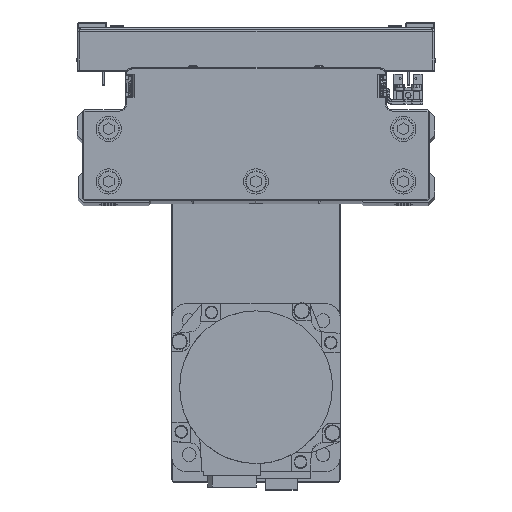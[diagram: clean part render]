
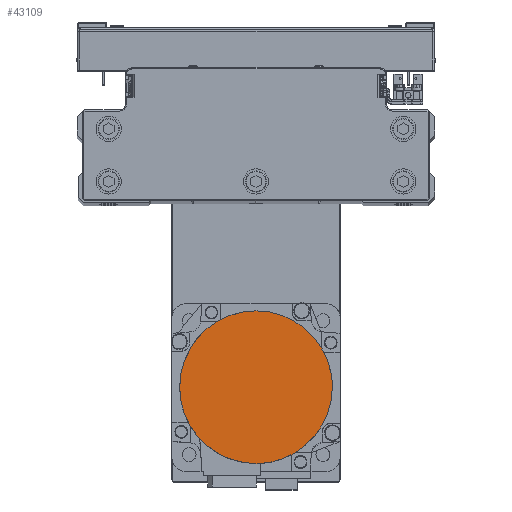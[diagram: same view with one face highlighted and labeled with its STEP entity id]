
A CAD part, top view. The second image highlights one B-rep face of the part: STEP entity #43109.
In plain terms, the highlighted planar face has unit normal (0, 0, 1) as drawn and (0, 0, -1) by its records, which use the part's own axes.
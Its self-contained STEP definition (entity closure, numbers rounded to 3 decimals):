
#898 = CARTESIAN_POINT ( 'NONE',  ( -2.376, 36.3, -122.2 ) ) ;
#987 = CARTESIAN_POINT ( 'NONE',  ( 0., -36.3, -122.2 ) ) ;
#1102 = CARTESIAN_POINT ( 'NONE',  ( -36.3, 0., -122.2 ) ) ;
#1126 = CARTESIAN_POINT ( 'NONE',  ( -35.139, 9.412, -122.2 ) ) ;
#1446 = ORIENTED_EDGE ( 'NONE', *, *, #22319, .F. ) ;
#1965 = CARTESIAN_POINT ( 'NONE',  ( -36.066, -4.752, -122.2 ) ) ;
#2179 = CARTESIAN_POINT ( 'NONE',  ( -4.752, -36.066, -122.2 ) ) ;
#3887 = EDGE_CURVE ( 'NONE', #6799, #14491, #17434, .T. ) ;
#4473 = CARTESIAN_POINT ( 'NONE',  ( 0., 0., -122.2 ) ) ;
#4503 = CARTESIAN_POINT ( 'NONE',  ( -31.502, 18.192, -122.2 ) ) ;
#5569 = CARTESIAN_POINT ( 'NONE',  ( -16.086, -32.628, -122.2 ) ) ;
#5800 = CARTESIAN_POINT ( 'NONE',  ( 36.3, 0., -122.2 ) ) ;
#6348 = DIRECTION ( 'NONE',  ( -1., 0., 0. ) ) ;
#6799 = VERTEX_POINT ( 'NONE', #5800 ) ;
#7138 = CARTESIAN_POINT ( 'NONE',  ( 0., 0., -122.2 ) ) ;
#7877 = CARTESIAN_POINT ( 'NONE',  ( -23.988, 27.348, -122.2 ) ) ;
#8948 = CARTESIAN_POINT ( 'NONE',  ( -23.988, -27.348, -122.2 ) ) ;
#11102 = ORIENTED_EDGE ( 'NONE', *, *, #35193, .F. ) ;
#11276 = CARTESIAN_POINT ( 'NONE',  ( -16.086, 32.628, -122.2 ) ) ;
#11455 = EDGE_CURVE ( 'NONE', #35699, #13165, #40135, .T. ) ;
#12094 = CARTESIAN_POINT ( 'NONE',  ( 0., 36.3, -122.2 ) ) ;
#12331 = CARTESIAN_POINT ( 'NONE',  ( -31.502, -18.192, -122.2 ) ) ;
#13165 = VERTEX_POINT ( 'NONE', #987 ) ;
#14491 = VERTEX_POINT ( 'NONE', #12094 ) ;
#14650 = CARTESIAN_POINT ( 'NONE',  ( -4.752, 36.066, -122.2 ) ) ;
#14862 = CIRCLE ( 'NONE', #40001, 36.3 ) ;
#14872 = CARTESIAN_POINT ( 'NONE',  ( -36.066, 4.752, -122.2 ) ) ;
#15730 = CARTESIAN_POINT ( 'NONE',  ( -35.139, -9.412, -122.2 ) ) ;
#15941 = CARTESIAN_POINT ( 'NONE',  ( -2.376, -36.3, -122.2 ) ) ;
#17434 = CIRCLE ( 'NONE', #42582, 36.3 ) ;
#18202 = DIRECTION ( 'NONE',  ( 0., 0., 1. ) ) ;
#18232 = CARTESIAN_POINT ( 'NONE',  ( -32.628, 16.086, -122.2 ) ) ;
#18540 = EDGE_LOOP ( 'NONE', ( #11102, #26945, #1446, #20354 ) ) ;
#19091 = CARTESIAN_POINT ( 'NONE',  ( -36.3, 0., -122.2 ) ) ;
#19315 = CARTESIAN_POINT ( 'NONE',  ( -11.696, -34.446, -122.2 ) ) ;
#20354 = ORIENTED_EDGE ( 'NONE', *, *, #3887, .F. ) ;
#20646 = B_SPLINE_CURVE_WITH_KNOTS ( 'NONE', 3,
 ( #31737, #898, #14650, #28382, #42104, #11276, #24998, #38735, #7877, #21602, #35345, #4503, #18232, #31972, #1126, #14872, #28599, #42323 ),
 .UNSPECIFIED., .F., .F.,
 ( 4, 2, 2, 2, 2, 2, 2, 2, 4 ),
 ( 0., 0.125, 0.25, 0.375, 0.5, 0.625, 0.75, 0.875, 1. ),
 .UNSPECIFIED. ) ;
#20871 = DIRECTION ( 'NONE',  ( 0., 0., 1. ) ) ;
#21576 = FACE_OUTER_BOUND ( 'NONE', #18540, .T. ) ;
#21602 = CARTESIAN_POINT ( 'NONE',  ( -27.348, 23.988, -122.2 ) ) ;
#22319 = EDGE_CURVE ( 'NONE', #14491, #35699, #20646, .T. ) ;
#22687 = CARTESIAN_POINT ( 'NONE',  ( -22.143, -28.862, -122.2 ) ) ;
#23463 = CARTESIAN_POINT ( 'NONE',  ( 0., 0., -122.2 ) ) ;
#24998 = CARTESIAN_POINT ( 'NONE',  ( -18.192, 31.502, -122.2 ) ) ;
#26064 = CARTESIAN_POINT ( 'NONE',  ( -28.862, -22.143, -122.2 ) ) ;
#26106 = AXIS2_PLACEMENT_3D ( 'NONE', #4473, #18202, #31935 ) ;
#26945 = ORIENTED_EDGE ( 'NONE', *, *, #11455, .F. ) ;
#28382 = CARTESIAN_POINT ( 'NONE',  ( -9.412, 35.139, -122.2 ) ) ;
#28599 = CARTESIAN_POINT ( 'NONE',  ( -36.3, 2.376, -122.2 ) ) ;
#29445 = CARTESIAN_POINT ( 'NONE',  ( -34.446, -11.696, -122.2 ) ) ;
#29665 = CARTESIAN_POINT ( 'NONE',  ( 0., -36.3, -122.2 ) ) ;
#31737 = CARTESIAN_POINT ( 'NONE',  ( 0., 36.3, -122.2 ) ) ;
#31935 = DIRECTION ( 'NONE',  ( 1., 0., 0. ) ) ;
#31972 = CARTESIAN_POINT ( 'NONE',  ( -34.446, 11.696, -122.2 ) ) ;
#32807 = CARTESIAN_POINT ( 'NONE',  ( -36.3, -2.376, -122.2 ) ) ;
#33032 = CARTESIAN_POINT ( 'NONE',  ( -9.412, -35.139, -122.2 ) ) ;
#34600 = DIRECTION ( 'NONE',  ( -1., 0., 0. ) ) ;
#35193 = EDGE_CURVE ( 'NONE', #13165, #6799, #14862, .T. ) ;
#35313 = PLANE ( 'NONE',  #26106 ) ;
#35345 = CARTESIAN_POINT ( 'NONE',  ( -28.862, 22.143, -122.2 ) ) ;
#35699 = VERTEX_POINT ( 'NONE', #1102 ) ;
#36421 = CARTESIAN_POINT ( 'NONE',  ( -18.192, -31.502, -122.2 ) ) ;
#37197 = DIRECTION ( 'NONE',  ( 0., 0., 1. ) ) ;
#38735 = CARTESIAN_POINT ( 'NONE',  ( -22.143, 28.862, -122.2 ) ) ;
#39797 = CARTESIAN_POINT ( 'NONE',  ( -27.348, -23.988, -122.2 ) ) ;
#40001 = AXIS2_PLACEMENT_3D ( 'NONE', #23463, #37197, #6348 ) ;
#40135 = B_SPLINE_CURVE_WITH_KNOTS ( 'NONE', 3,
 ( #19091, #32807, #1965, #15730, #29445, #43161, #12331, #26064, #39797, #8948, #22687, #36421, #5569, #19315, #33032, #2179, #15941, #29665 ),
 .UNSPECIFIED., .F., .F.,
 ( 4, 2, 2, 2, 2, 2, 2, 2, 4 ),
 ( 0., 0.125, 0.25, 0.375, 0.5, 0.625, 0.75, 0.875, 1. ),
 .UNSPECIFIED. ) ;
#42104 = CARTESIAN_POINT ( 'NONE',  ( -11.696, 34.446, -122.2 ) ) ;
#42323 = CARTESIAN_POINT ( 'NONE',  ( -36.3, 0., -122.2 ) ) ;
#42582 = AXIS2_PLACEMENT_3D ( 'NONE', #7138, #20871, #34600 ) ;
#43109 = ADVANCED_FACE ( 'NONE', ( #21576 ), #35313, .F. ) ;
#43161 = CARTESIAN_POINT ( 'NONE',  ( -32.628, -16.086, -122.2 ) ) ;
